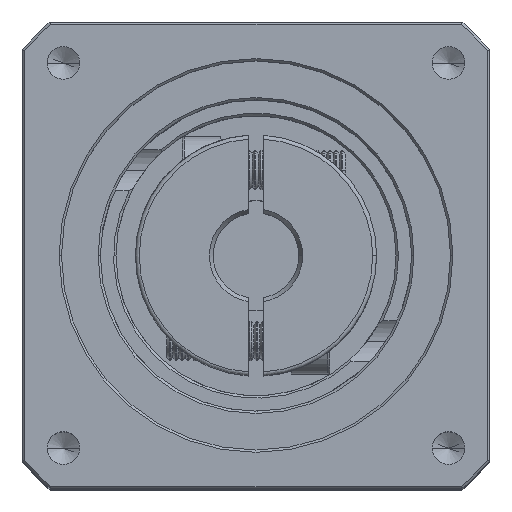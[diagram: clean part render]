
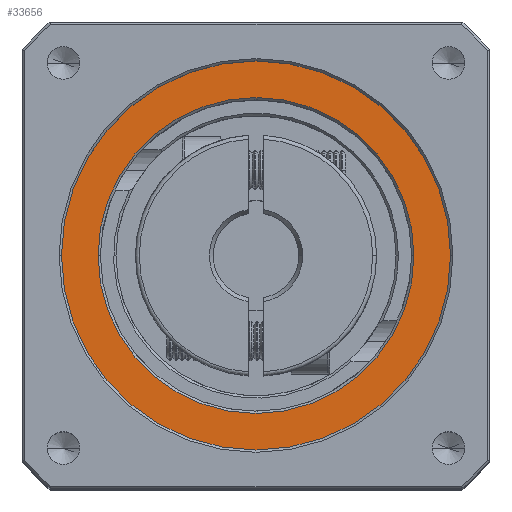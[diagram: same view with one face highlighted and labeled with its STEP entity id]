
A CAD part, top view. The second image highlights one B-rep face of the part: STEP entity #33656.
In plain terms, the highlighted planar face has unit normal (0, 0, 1).
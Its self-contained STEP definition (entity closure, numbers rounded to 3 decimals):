
#2124 = DIRECTION ( 'NONE',  ( 0., 0., 1. ) ) ;
#5214 = DIRECTION ( 'NONE',  ( 1., 0., 0. ) ) ;
#10537 = CARTESIAN_POINT ( 'NONE',  ( -70.977, 22.072, 40.365 ) ) ;
#12887 = VERTEX_POINT ( 'NONE', #39398 ) ;
#14074 = CARTESIAN_POINT ( 'NONE',  ( -70.977, 22.072, 40.365 ) ) ;
#15312 = PLANE ( 'NONE',  #30422 ) ;
#15552 = CIRCLE ( 'NONE', #43243, 20.3 ) ;
#17211 = DIRECTION ( 'NONE',  ( 1., 0., 0. ) ) ;
#19660 = CARTESIAN_POINT ( 'NONE',  ( -95.977, 22.072, 40.365 ) ) ;
#20767 = DIRECTION ( 'NONE',  ( 1., 0., 0. ) ) ;
#23450 = EDGE_CURVE ( 'NONE', #12887, #68386, #29807, .T. ) ;
#24210 = ORIENTED_EDGE ( 'NONE', *, *, #26223, .T. ) ;
#24796 = ORIENTED_EDGE ( 'NONE', *, *, #23450, .T. ) ;
#25859 = CARTESIAN_POINT ( 'NONE',  ( -70.977, 22.072, 40.365 ) ) ;
#26223 = EDGE_CURVE ( 'NONE', #68386, #12887, #15552, .T. ) ;
#29807 = CIRCLE ( 'NONE', #67294, 20.3 ) ;
#30422 = AXIS2_PLACEMENT_3D ( 'NONE', #42032, #2124, #48732 ) ;
#32575 = DIRECTION ( 'NONE',  ( 1., 0., 0. ) ) ;
#33656 = ADVANCED_FACE ( 'NONE', ( #47489, #63015 ), #15312, .T. ) ;
#39398 = CARTESIAN_POINT ( 'NONE',  ( -91.277, 22.072, 40.365 ) ) ;
#40380 = VERTEX_POINT ( 'NONE', #74009 ) ;
#41276 = AXIS2_PLACEMENT_3D ( 'NONE', #84720, #45063, #5214 ) ;
#42032 = CARTESIAN_POINT ( 'NONE',  ( -70.977, 22.072, 40.365 ) ) ;
#43243 = AXIS2_PLACEMENT_3D ( 'NONE', #25859, #72303, #32575 ) ;
#45063 = DIRECTION ( 'NONE',  ( 0., 0., 1. ) ) ;
#47489 = FACE_BOUND ( 'NONE', #65545, .T. ) ;
#48732 = DIRECTION ( 'NONE',  ( 1., 0., 0. ) ) ;
#57000 = DIRECTION ( 'NONE',  ( 0., 0., -1. ) ) ;
#57797 = ORIENTED_EDGE ( 'NONE', *, *, #82948, .T. ) ;
#60513 = DIRECTION ( 'NONE',  ( 0., 0., 1. ) ) ;
#63015 = FACE_OUTER_BOUND ( 'NONE', #72580, .T. ) ;
#64018 = AXIS2_PLACEMENT_3D ( 'NONE', #14074, #60513, #20767 ) ;
#65545 = EDGE_LOOP ( 'NONE', ( #24210, #24796 ) ) ;
#67294 = AXIS2_PLACEMENT_3D ( 'NONE', #10537, #57000, #17211 ) ;
#68386 = VERTEX_POINT ( 'NONE', #84481 ) ;
#72303 = DIRECTION ( 'NONE',  ( 0., 0., -1. ) ) ;
#72580 = EDGE_LOOP ( 'NONE', ( #57797, #76588 ) ) ;
#74009 = CARTESIAN_POINT ( 'NONE',  ( -45.977, 22.072, 40.365 ) ) ;
#76588 = ORIENTED_EDGE ( 'NONE', *, *, #83457, .T. ) ;
#78469 = VERTEX_POINT ( 'NONE', #19660 ) ;
#81330 = CIRCLE ( 'NONE', #41276, 25. ) ;
#82948 = EDGE_CURVE ( 'NONE', #40380, #78469, #83556, .T. ) ;
#83457 = EDGE_CURVE ( 'NONE', #78469, #40380, #81330, .T. ) ;
#83556 = CIRCLE ( 'NONE', #64018, 25. ) ;
#84481 = CARTESIAN_POINT ( 'NONE',  ( -50.677, 22.072, 40.365 ) ) ;
#84720 = CARTESIAN_POINT ( 'NONE',  ( -70.977, 22.072, 40.365 ) ) ;
